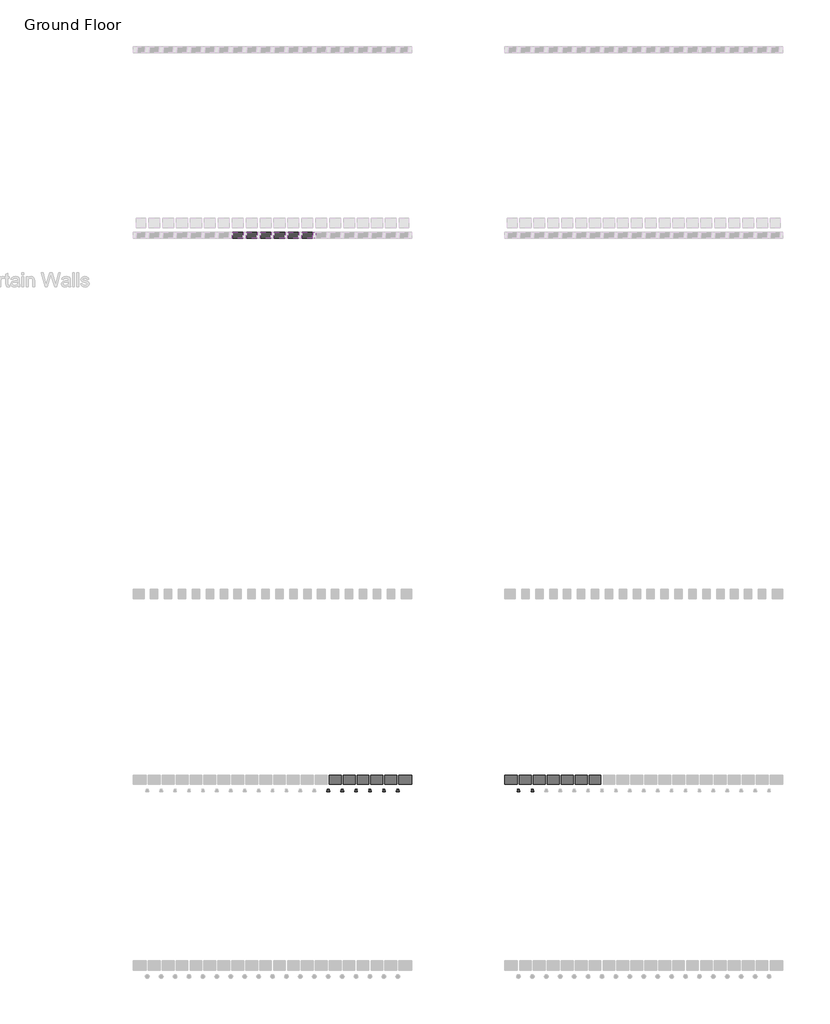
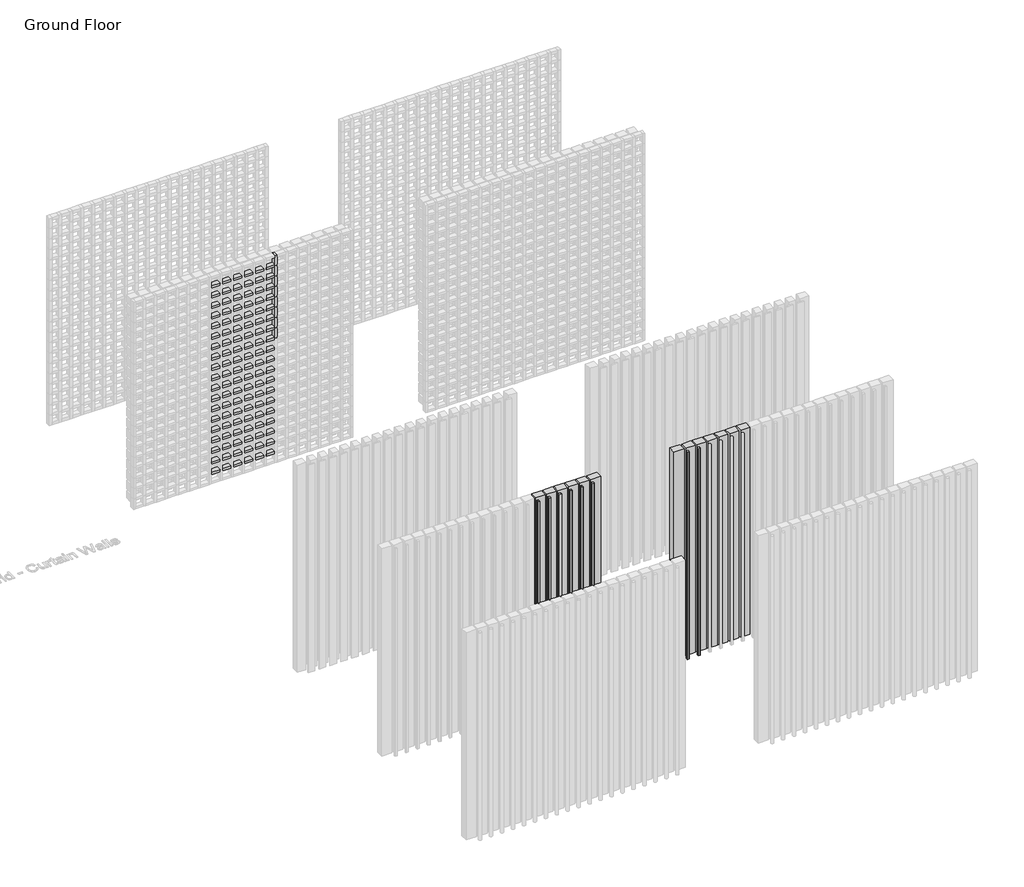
# One storey, part 60 of 350: 130 members, 13 plates.
"""IFC4 building model written with IfcOpenShell, lengths in millimetres."""

from ifc_helpers import new_model, si_unit, origin, place, context, project, spatial, transform, mapped, element, save
from components import rectangular_mullion_25c8ac94, rectangular_mullion_5b501421, rectangular_mullion_f28dea33, empty_system_panel_empty_de2abd15, empty_system_panel_empty_1239baa2, empty_system_panel_empty_e311c30d

model = new_model("IFC4")

# Units and contexts
model_context = context("Model", 3, world=origin())
ifc_project = project(units=[si_unit("LENGTHUNIT", "METRE", prefix="MILLI")], contexts=[model_context])

# Site, building, storey
site = spatial("IfcSite", under=ifc_project)
building = spatial("IfcBuilding", under=site)
storey = spatial("IfcBuildingStorey", under=building, Name="Ground Floor", Elevation=0.0)

# Members
placement = place(None, origin())
rectangular_mullion_shape = rectangular_mullion_25c8ac94(model_context)
element("IfcMember", 1, ObjectType="Rectangular Mullion : Batten_Aluminium_Modinex_Austratus_Linear_Fin_Cedar", at=placement, inside=storey, context=model_context, shape_type="MappedRepresentation", body=[
    mapped(rectangular_mullion_shape, transform((8016.4361642, 32968.2978302, 0.0), x_axis=(1.0, 0.0, 0.0), y_axis=(0.0, -1.0, 0.0), z_axis=(0.0, 0.0, -1.0))),
])
element("IfcMember", 2, ObjectType="Rectangular Mullion : Batten_Aluminium_Modinex_Austratus_Linear_Fin_Cedar", at=placement, inside=storey, context=model_context, shape_type="MappedRepresentation", body=[
    mapped(rectangular_mullion_shape, transform((8166.4361642, 32968.2978302, 0.0), x_axis=(1.0, 0.0, 0.0), y_axis=(0.0, -1.0, 0.0), z_axis=(0.0, 0.0, -1.0))),
])
element("IfcMember", 3, ObjectType="Rectangular Mullion : Batten_Aluminium_Modinex_Austratus_Linear_Fin_Cedar", at=placement, inside=storey, context=model_context, shape_type="MappedRepresentation", body=[
    mapped(rectangular_mullion_shape, transform((8316.4361642, 32968.2978302, 0.0), x_axis=(1.0, 0.0, 0.0), y_axis=(0.0, -1.0, 0.0), z_axis=(0.0, 0.0, -1.0))),
])
element("IfcMember", 4, ObjectType="Rectangular Mullion : Batten_Aluminium_Modinex_Austratus_Linear_Fin_Cedar", at=placement, inside=storey, context=model_context, shape_type="MappedRepresentation", body=[
    mapped(rectangular_mullion_shape, transform((8466.4361642, 32968.2978302, 0.0), x_axis=(1.0, 0.0, 0.0), y_axis=(0.0, -1.0, 0.0), z_axis=(0.0, 0.0, -1.0))),
])
element("IfcMember", 5, ObjectType="Rectangular Mullion : Batten_Aluminium_Modinex_Austratus_Linear_Fin_Cedar", at=placement, inside=storey, context=model_context, shape_type="MappedRepresentation", body=[
    mapped(rectangular_mullion_shape, transform((8616.4361642, 32968.2978302, 0.0), x_axis=(1.0, 0.0, 0.0), y_axis=(0.0, -1.0, 0.0), z_axis=(0.0, 0.0, -1.0))),
])
element("IfcMember", 6, ObjectType="Rectangular Mullion : Batten_Aluminium_Modinex_Austratus_Linear_Fin_Cedar", at=placement, inside=storey, context=model_context, shape_type="MappedRepresentation", body=[
    mapped(rectangular_mullion_shape, transform((8766.4361642, 32968.2978302, 0.0), x_axis=(1.0, 0.0, 0.0), y_axis=(0.0, -1.0, 0.0), z_axis=(0.0, 0.0, -1.0))),
])
rectangular_mullion_2_shape = rectangular_mullion_5b501421(model_context)
element("IfcMember", 7, ObjectType="Rectangular Mullion : Batten_Timber_Modinex_Austratus_Grid_Fascia_30x65_Blackbutt", at=placement, inside=storey, context=model_context, shape_type="MappedRepresentation", body=[
    mapped(rectangular_mullion_2_shape, transform((7866.4361642, 38968.2978302, 1800.0), x_axis=(1.0, 0.0, 0.0), y_axis=(0.0, -1.0, 0.0), z_axis=(0.0, 0.0, -1.0))),
])
element("IfcMember", 8, ObjectType="Rectangular Mullion : Batten_Timber_Modinex_Austratus_Grid_Fascia_30x65_Blackbutt", at=placement, inside=storey, context=model_context, shape_type="MappedRepresentation", body=[
    mapped(rectangular_mullion_2_shape, transform((7866.4361642, 38968.2978302, 1950.0), x_axis=(1.0, 0.0, 0.0), y_axis=(0.0, -1.0, 0.0), z_axis=(0.0, 0.0, -1.0))),
])
element("IfcMember", 9, ObjectType="Rectangular Mullion : Batten_Timber_Modinex_Austratus_Grid_Fascia_30x65_Blackbutt", at=placement, inside=storey, context=model_context, shape_type="MappedRepresentation", body=[
    mapped(rectangular_mullion_2_shape, transform((7866.4361642, 38968.2978302, 2100.0), x_axis=(1.0, 0.0, 0.0), y_axis=(0.0, -1.0, 0.0), z_axis=(0.0, 0.0, -1.0))),
])
element("IfcMember", 10, ObjectType="Rectangular Mullion : Batten_Timber_Modinex_Austratus_Grid_Fascia_30x65_Blackbutt", at=placement, inside=storey, context=model_context, shape_type="MappedRepresentation", body=[
    mapped(rectangular_mullion_2_shape, transform((7866.4361642, 38968.2978302, 2250.0), x_axis=(1.0, 0.0, 0.0), y_axis=(0.0, -1.0, 0.0), z_axis=(0.0, 0.0, -1.0))),
])
element("IfcMember", 11, ObjectType="Rectangular Mullion : Batten_Timber_Modinex_Austratus_Grid_Fascia_30x65_Blackbutt", at=placement, inside=storey, context=model_context, shape_type="MappedRepresentation", body=[
    mapped(rectangular_mullion_2_shape, transform((7866.4361642, 38968.2978302, 2400.0), x_axis=(1.0, 0.0, 0.0), y_axis=(0.0, -1.0, 0.0), z_axis=(0.0, 0.0, -1.0))),
])
element("IfcMember", 12, ObjectType="Rectangular Mullion : Batten_Timber_Modinex_Austratus_Grid_Fascia_30x65_Blackbutt", at=placement, inside=storey, context=model_context, shape_type="MappedRepresentation", body=[
    mapped(rectangular_mullion_2_shape, transform((7866.4361642, 38968.2978302, 2550.0), x_axis=(1.0, 0.0, 0.0), y_axis=(0.0, -1.0, 0.0), z_axis=(0.0, 0.0, -1.0))),
])
element("IfcMember", 13, ObjectType="Rectangular Mullion : Batten_Timber_Modinex_Austratus_Grid_Fascia_30x65_Blackbutt", at=placement, inside=storey, context=model_context, shape_type="MappedRepresentation", body=[
    mapped(rectangular_mullion_2_shape, transform((7866.4361642, 38968.2978302, 2700.0), x_axis=(1.0, 0.0, 0.0), y_axis=(0.0, -1.0, 0.0), z_axis=(0.0, 0.0, -1.0))),
])
element("IfcMember", 14, ObjectType="Rectangular Mullion : Batten_Timber_Modinex_Austratus_Grid_Fascia_30x65_Blackbutt", at=placement, inside=storey, context=model_context, shape_type="MappedRepresentation", body=[
    mapped(rectangular_mullion_2_shape, transform((7866.4361642, 38968.2978302, 2850.0), x_axis=(1.0, 0.0, 0.0), y_axis=(0.0, -1.0, 0.0), z_axis=(0.0, 0.0, -1.0))),
])
rectangular_mullion_3_shape = rectangular_mullion_f28dea33(model_context)
element("IfcMember", 15, ObjectType="Rectangular Mullion : Batten_Timber_Modinex_Austratus_Grid_Fascia_30x65_Blackbutt", at=placement, inside=storey, context=model_context, shape_type="MappedRepresentation", body=[
    mapped(rectangular_mullion_3_shape, transform((7101.4361642, 38968.2978302, 150.0), x_axis=(0.0, 0.0, 1.0), y_axis=(0.0, -1.0, 0.0), z_axis=(1.0, 0.0, 0.0))),
])
element("IfcMember", 16, ObjectType="Rectangular Mullion : Batten_Timber_Modinex_Austratus_Grid_Fascia_30x65_Blackbutt", at=placement, inside=storey, context=model_context, shape_type="MappedRepresentation", body=[
    mapped(rectangular_mullion_3_shape, transform((7251.4361642, 38968.2978302, 150.0), x_axis=(0.0, 0.0, 1.0), y_axis=(0.0, -1.0, 0.0), z_axis=(1.0, 0.0, 0.0))),
])
element("IfcMember", 17, ObjectType="Rectangular Mullion : Batten_Timber_Modinex_Austratus_Grid_Fascia_30x65_Blackbutt", at=placement, inside=storey, context=model_context, shape_type="MappedRepresentation", body=[
    mapped(rectangular_mullion_3_shape, transform((7401.4361642, 38968.2978302, 150.0), x_axis=(0.0, 0.0, 1.0), y_axis=(0.0, -1.0, 0.0), z_axis=(1.0, 0.0, 0.0))),
])
element("IfcMember", 18, ObjectType="Rectangular Mullion : Batten_Timber_Modinex_Austratus_Grid_Fascia_30x65_Blackbutt", at=placement, inside=storey, context=model_context, shape_type="MappedRepresentation", body=[
    mapped(rectangular_mullion_3_shape, transform((7551.4361642, 38968.2978302, 150.0), x_axis=(0.0, 0.0, 1.0), y_axis=(0.0, -1.0, 0.0), z_axis=(1.0, 0.0, 0.0))),
])
element("IfcMember", 19, ObjectType="Rectangular Mullion : Batten_Timber_Modinex_Austratus_Grid_Fascia_30x65_Blackbutt", at=placement, inside=storey, context=model_context, shape_type="MappedRepresentation", body=[
    mapped(rectangular_mullion_3_shape, transform((7701.4361642, 38968.2978302, 150.0), x_axis=(0.0, 0.0, 1.0), y_axis=(0.0, -1.0, 0.0), z_axis=(1.0, 0.0, 0.0))),
])
element("IfcMember", 20, ObjectType="Rectangular Mullion : Batten_Timber_Modinex_Austratus_Grid_Fascia_30x65_Blackbutt", at=placement, inside=storey, context=model_context, shape_type="MappedRepresentation", body=[
    mapped(rectangular_mullion_3_shape, transform((7851.4361642, 38968.2978302, 150.0), x_axis=(0.0, 0.0, 1.0), y_axis=(0.0, -1.0, 0.0), z_axis=(1.0, 0.0, 0.0))),
])
element("IfcMember", 21, ObjectType="Rectangular Mullion : Batten_Timber_Modinex_Austratus_Grid_Fascia_30x65_Blackbutt", at=placement, inside=storey, context=model_context, shape_type="MappedRepresentation", body=[
    mapped(rectangular_mullion_3_shape, transform((7101.4361642, 38968.2978302, 300.0), x_axis=(0.0, 0.0, 1.0), y_axis=(0.0, -1.0, 0.0), z_axis=(1.0, 0.0, 0.0))),
])
element("IfcMember", 22, ObjectType="Rectangular Mullion : Batten_Timber_Modinex_Austratus_Grid_Fascia_30x65_Blackbutt", at=placement, inside=storey, context=model_context, shape_type="MappedRepresentation", body=[
    mapped(rectangular_mullion_3_shape, transform((7251.4361642, 38968.2978302, 300.0), x_axis=(0.0, 0.0, 1.0), y_axis=(0.0, -1.0, 0.0), z_axis=(1.0, 0.0, 0.0))),
])
element("IfcMember", 23, ObjectType="Rectangular Mullion : Batten_Timber_Modinex_Austratus_Grid_Fascia_30x65_Blackbutt", at=placement, inside=storey, context=model_context, shape_type="MappedRepresentation", body=[
    mapped(rectangular_mullion_3_shape, transform((7401.4361642, 38968.2978302, 300.0), x_axis=(0.0, 0.0, 1.0), y_axis=(0.0, -1.0, 0.0), z_axis=(1.0, 0.0, 0.0))),
])
element("IfcMember", 24, ObjectType="Rectangular Mullion : Batten_Timber_Modinex_Austratus_Grid_Fascia_30x65_Blackbutt", at=placement, inside=storey, context=model_context, shape_type="MappedRepresentation", body=[
    mapped(rectangular_mullion_3_shape, transform((7551.4361642, 38968.2978302, 300.0), x_axis=(0.0, 0.0, 1.0), y_axis=(0.0, -1.0, 0.0), z_axis=(1.0, 0.0, 0.0))),
])
element("IfcMember", 25, ObjectType="Rectangular Mullion : Batten_Timber_Modinex_Austratus_Grid_Fascia_30x65_Blackbutt", at=placement, inside=storey, context=model_context, shape_type="MappedRepresentation", body=[
    mapped(rectangular_mullion_3_shape, transform((7701.4361642, 38968.2978302, 300.0), x_axis=(0.0, 0.0, 1.0), y_axis=(0.0, -1.0, 0.0), z_axis=(1.0, 0.0, 0.0))),
])
element("IfcMember", 26, ObjectType="Rectangular Mullion : Batten_Timber_Modinex_Austratus_Grid_Fascia_30x65_Blackbutt", at=placement, inside=storey, context=model_context, shape_type="MappedRepresentation", body=[
    mapped(rectangular_mullion_3_shape, transform((7851.4361642, 38968.2978302, 300.0), x_axis=(0.0, 0.0, 1.0), y_axis=(0.0, -1.0, 0.0), z_axis=(1.0, 0.0, 0.0))),
])
element("IfcMember", 27, ObjectType="Rectangular Mullion : Batten_Timber_Modinex_Austratus_Grid_Fascia_30x65_Blackbutt", at=placement, inside=storey, context=model_context, shape_type="MappedRepresentation", body=[
    mapped(rectangular_mullion_3_shape, transform((7101.4361642, 38968.2978302, 450.0), x_axis=(0.0, 0.0, 1.0), y_axis=(0.0, -1.0, 0.0), z_axis=(1.0, 0.0, 0.0))),
])
element("IfcMember", 28, ObjectType="Rectangular Mullion : Batten_Timber_Modinex_Austratus_Grid_Fascia_30x65_Blackbutt", at=placement, inside=storey, context=model_context, shape_type="MappedRepresentation", body=[
    mapped(rectangular_mullion_3_shape, transform((7251.4361642, 38968.2978302, 450.0), x_axis=(0.0, 0.0, 1.0), y_axis=(0.0, -1.0, 0.0), z_axis=(1.0, 0.0, 0.0))),
])
element("IfcMember", 29, ObjectType="Rectangular Mullion : Batten_Timber_Modinex_Austratus_Grid_Fascia_30x65_Blackbutt", at=placement, inside=storey, context=model_context, shape_type="MappedRepresentation", body=[
    mapped(rectangular_mullion_3_shape, transform((7401.4361642, 38968.2978302, 450.0), x_axis=(0.0, 0.0, 1.0), y_axis=(0.0, -1.0, 0.0), z_axis=(1.0, 0.0, 0.0))),
])
element("IfcMember", 30, ObjectType="Rectangular Mullion : Batten_Timber_Modinex_Austratus_Grid_Fascia_30x65_Blackbutt", at=placement, inside=storey, context=model_context, shape_type="MappedRepresentation", body=[
    mapped(rectangular_mullion_3_shape, transform((7551.4361642, 38968.2978302, 450.0), x_axis=(0.0, 0.0, 1.0), y_axis=(0.0, -1.0, 0.0), z_axis=(1.0, 0.0, 0.0))),
])
element("IfcMember", 31, ObjectType="Rectangular Mullion : Batten_Timber_Modinex_Austratus_Grid_Fascia_30x65_Blackbutt", at=placement, inside=storey, context=model_context, shape_type="MappedRepresentation", body=[
    mapped(rectangular_mullion_3_shape, transform((7701.4361642, 38968.2978302, 450.0), x_axis=(0.0, 0.0, 1.0), y_axis=(0.0, -1.0, 0.0), z_axis=(1.0, 0.0, 0.0))),
])
element("IfcMember", 32, ObjectType="Rectangular Mullion : Batten_Timber_Modinex_Austratus_Grid_Fascia_30x65_Blackbutt", at=placement, inside=storey, context=model_context, shape_type="MappedRepresentation", body=[
    mapped(rectangular_mullion_3_shape, transform((7851.4361642, 38968.2978302, 450.0), x_axis=(0.0, 0.0, 1.0), y_axis=(0.0, -1.0, 0.0), z_axis=(1.0, 0.0, 0.0))),
])
element("IfcMember", 33, ObjectType="Rectangular Mullion : Batten_Timber_Modinex_Austratus_Grid_Fascia_30x65_Blackbutt", at=placement, inside=storey, context=model_context, shape_type="MappedRepresentation", body=[
    mapped(rectangular_mullion_3_shape, transform((7101.4361642, 38968.2978302, 600.0), x_axis=(0.0, 0.0, 1.0), y_axis=(0.0, -1.0, 0.0), z_axis=(1.0, 0.0, 0.0))),
])
element("IfcMember", 34, ObjectType="Rectangular Mullion : Batten_Timber_Modinex_Austratus_Grid_Fascia_30x65_Blackbutt", at=placement, inside=storey, context=model_context, shape_type="MappedRepresentation", body=[
    mapped(rectangular_mullion_3_shape, transform((7251.4361642, 38968.2978302, 600.0), x_axis=(0.0, 0.0, 1.0), y_axis=(0.0, -1.0, 0.0), z_axis=(1.0, 0.0, 0.0))),
])
element("IfcMember", 35, ObjectType="Rectangular Mullion : Batten_Timber_Modinex_Austratus_Grid_Fascia_30x65_Blackbutt", at=placement, inside=storey, context=model_context, shape_type="MappedRepresentation", body=[
    mapped(rectangular_mullion_3_shape, transform((7401.4361642, 38968.2978302, 600.0), x_axis=(0.0, 0.0, 1.0), y_axis=(0.0, -1.0, 0.0), z_axis=(1.0, 0.0, 0.0))),
])
element("IfcMember", 36, ObjectType="Rectangular Mullion : Batten_Timber_Modinex_Austratus_Grid_Fascia_30x65_Blackbutt", at=placement, inside=storey, context=model_context, shape_type="MappedRepresentation", body=[
    mapped(rectangular_mullion_3_shape, transform((7551.4361642, 38968.2978302, 600.0), x_axis=(0.0, 0.0, 1.0), y_axis=(0.0, -1.0, 0.0), z_axis=(1.0, 0.0, 0.0))),
])
element("IfcMember", 37, ObjectType="Rectangular Mullion : Batten_Timber_Modinex_Austratus_Grid_Fascia_30x65_Blackbutt", at=placement, inside=storey, context=model_context, shape_type="MappedRepresentation", body=[
    mapped(rectangular_mullion_3_shape, transform((7701.4361642, 38968.2978302, 600.0), x_axis=(0.0, 0.0, 1.0), y_axis=(0.0, -1.0, 0.0), z_axis=(1.0, 0.0, 0.0))),
])
element("IfcMember", 38, ObjectType="Rectangular Mullion : Batten_Timber_Modinex_Austratus_Grid_Fascia_30x65_Blackbutt", at=placement, inside=storey, context=model_context, shape_type="MappedRepresentation", body=[
    mapped(rectangular_mullion_3_shape, transform((7851.4361642, 38968.2978302, 600.0), x_axis=(0.0, 0.0, 1.0), y_axis=(0.0, -1.0, 0.0), z_axis=(1.0, 0.0, 0.0))),
])
element("IfcMember", 39, ObjectType="Rectangular Mullion : Batten_Timber_Modinex_Austratus_Grid_Fascia_30x65_Blackbutt", at=placement, inside=storey, context=model_context, shape_type="MappedRepresentation", body=[
    mapped(rectangular_mullion_3_shape, transform((7101.4361642, 38968.2978302, 750.0), x_axis=(0.0, 0.0, 1.0), y_axis=(0.0, -1.0, 0.0), z_axis=(1.0, 0.0, 0.0))),
])
element("IfcMember", 40, ObjectType="Rectangular Mullion : Batten_Timber_Modinex_Austratus_Grid_Fascia_30x65_Blackbutt", at=placement, inside=storey, context=model_context, shape_type="MappedRepresentation", body=[
    mapped(rectangular_mullion_3_shape, transform((7251.4361642, 38968.2978302, 750.0), x_axis=(0.0, 0.0, 1.0), y_axis=(0.0, -1.0, 0.0), z_axis=(1.0, 0.0, 0.0))),
])
element("IfcMember", 41, ObjectType="Rectangular Mullion : Batten_Timber_Modinex_Austratus_Grid_Fascia_30x65_Blackbutt", at=placement, inside=storey, context=model_context, shape_type="MappedRepresentation", body=[
    mapped(rectangular_mullion_3_shape, transform((7401.4361642, 38968.2978302, 750.0), x_axis=(0.0, 0.0, 1.0), y_axis=(0.0, -1.0, 0.0), z_axis=(1.0, 0.0, 0.0))),
])
element("IfcMember", 42, ObjectType="Rectangular Mullion : Batten_Timber_Modinex_Austratus_Grid_Fascia_30x65_Blackbutt", at=placement, inside=storey, context=model_context, shape_type="MappedRepresentation", body=[
    mapped(rectangular_mullion_3_shape, transform((7551.4361642, 38968.2978302, 750.0), x_axis=(0.0, 0.0, 1.0), y_axis=(0.0, -1.0, 0.0), z_axis=(1.0, 0.0, 0.0))),
])
element("IfcMember", 43, ObjectType="Rectangular Mullion : Batten_Timber_Modinex_Austratus_Grid_Fascia_30x65_Blackbutt", at=placement, inside=storey, context=model_context, shape_type="MappedRepresentation", body=[
    mapped(rectangular_mullion_3_shape, transform((7701.4361642, 38968.2978302, 750.0), x_axis=(0.0, 0.0, 1.0), y_axis=(0.0, -1.0, 0.0), z_axis=(1.0, 0.0, 0.0))),
])
element("IfcMember", 44, ObjectType="Rectangular Mullion : Batten_Timber_Modinex_Austratus_Grid_Fascia_30x65_Blackbutt", at=placement, inside=storey, context=model_context, shape_type="MappedRepresentation", body=[
    mapped(rectangular_mullion_3_shape, transform((7851.4361642, 38968.2978302, 750.0), x_axis=(0.0, 0.0, 1.0), y_axis=(0.0, -1.0, 0.0), z_axis=(1.0, 0.0, 0.0))),
])
element("IfcMember", 45, ObjectType="Rectangular Mullion : Batten_Timber_Modinex_Austratus_Grid_Fascia_30x65_Blackbutt", at=placement, inside=storey, context=model_context, shape_type="MappedRepresentation", body=[
    mapped(rectangular_mullion_3_shape, transform((7101.4361642, 38968.2978302, 900.0), x_axis=(0.0, 0.0, 1.0), y_axis=(0.0, -1.0, 0.0), z_axis=(1.0, 0.0, 0.0))),
])
element("IfcMember", 46, ObjectType="Rectangular Mullion : Batten_Timber_Modinex_Austratus_Grid_Fascia_30x65_Blackbutt", at=placement, inside=storey, context=model_context, shape_type="MappedRepresentation", body=[
    mapped(rectangular_mullion_3_shape, transform((7251.4361642, 38968.2978302, 900.0), x_axis=(0.0, 0.0, 1.0), y_axis=(0.0, -1.0, 0.0), z_axis=(1.0, 0.0, 0.0))),
])
element("IfcMember", 47, ObjectType="Rectangular Mullion : Batten_Timber_Modinex_Austratus_Grid_Fascia_30x65_Blackbutt", at=placement, inside=storey, context=model_context, shape_type="MappedRepresentation", body=[
    mapped(rectangular_mullion_3_shape, transform((7401.4361642, 38968.2978302, 900.0), x_axis=(0.0, 0.0, 1.0), y_axis=(0.0, -1.0, 0.0), z_axis=(1.0, 0.0, 0.0))),
])
element("IfcMember", 48, ObjectType="Rectangular Mullion : Batten_Timber_Modinex_Austratus_Grid_Fascia_30x65_Blackbutt", at=placement, inside=storey, context=model_context, shape_type="MappedRepresentation", body=[
    mapped(rectangular_mullion_3_shape, transform((7551.4361642, 38968.2978302, 900.0), x_axis=(0.0, 0.0, 1.0), y_axis=(0.0, -1.0, 0.0), z_axis=(1.0, 0.0, 0.0))),
])
element("IfcMember", 49, ObjectType="Rectangular Mullion : Batten_Timber_Modinex_Austratus_Grid_Fascia_30x65_Blackbutt", at=placement, inside=storey, context=model_context, shape_type="MappedRepresentation", body=[
    mapped(rectangular_mullion_3_shape, transform((7701.4361642, 38968.2978302, 900.0), x_axis=(0.0, 0.0, 1.0), y_axis=(0.0, -1.0, 0.0), z_axis=(1.0, 0.0, 0.0))),
])
element("IfcMember", 50, ObjectType="Rectangular Mullion : Batten_Timber_Modinex_Austratus_Grid_Fascia_30x65_Blackbutt", at=placement, inside=storey, context=model_context, shape_type="MappedRepresentation", body=[
    mapped(rectangular_mullion_3_shape, transform((7851.4361642, 38968.2978302, 900.0), x_axis=(0.0, 0.0, 1.0), y_axis=(0.0, -1.0, 0.0), z_axis=(1.0, 0.0, 0.0))),
])
element("IfcMember", 51, ObjectType="Rectangular Mullion : Batten_Timber_Modinex_Austratus_Grid_Fascia_30x65_Blackbutt", at=placement, inside=storey, context=model_context, shape_type="MappedRepresentation", body=[
    mapped(rectangular_mullion_3_shape, transform((7101.4361642, 38968.2978302, 1050.0), x_axis=(0.0, 0.0, 1.0), y_axis=(0.0, -1.0, 0.0), z_axis=(1.0, 0.0, 0.0))),
])
element("IfcMember", 52, ObjectType="Rectangular Mullion : Batten_Timber_Modinex_Austratus_Grid_Fascia_30x65_Blackbutt", at=placement, inside=storey, context=model_context, shape_type="MappedRepresentation", body=[
    mapped(rectangular_mullion_3_shape, transform((7251.4361642, 38968.2978302, 1050.0), x_axis=(0.0, 0.0, 1.0), y_axis=(0.0, -1.0, 0.0), z_axis=(1.0, 0.0, 0.0))),
])
element("IfcMember", 53, ObjectType="Rectangular Mullion : Batten_Timber_Modinex_Austratus_Grid_Fascia_30x65_Blackbutt", at=placement, inside=storey, context=model_context, shape_type="MappedRepresentation", body=[
    mapped(rectangular_mullion_3_shape, transform((7401.4361642, 38968.2978302, 1050.0), x_axis=(0.0, 0.0, 1.0), y_axis=(0.0, -1.0, 0.0), z_axis=(1.0, 0.0, 0.0))),
])
element("IfcMember", 54, ObjectType="Rectangular Mullion : Batten_Timber_Modinex_Austratus_Grid_Fascia_30x65_Blackbutt", at=placement, inside=storey, context=model_context, shape_type="MappedRepresentation", body=[
    mapped(rectangular_mullion_3_shape, transform((7551.4361642, 38968.2978302, 1050.0), x_axis=(0.0, 0.0, 1.0), y_axis=(0.0, -1.0, 0.0), z_axis=(1.0, 0.0, 0.0))),
])
element("IfcMember", 55, ObjectType="Rectangular Mullion : Batten_Timber_Modinex_Austratus_Grid_Fascia_30x65_Blackbutt", at=placement, inside=storey, context=model_context, shape_type="MappedRepresentation", body=[
    mapped(rectangular_mullion_3_shape, transform((7701.4361642, 38968.2978302, 1050.0), x_axis=(0.0, 0.0, 1.0), y_axis=(0.0, -1.0, 0.0), z_axis=(1.0, 0.0, 0.0))),
])
element("IfcMember", 56, ObjectType="Rectangular Mullion : Batten_Timber_Modinex_Austratus_Grid_Fascia_30x65_Blackbutt", at=placement, inside=storey, context=model_context, shape_type="MappedRepresentation", body=[
    mapped(rectangular_mullion_3_shape, transform((7851.4361642, 38968.2978302, 1050.0), x_axis=(0.0, 0.0, 1.0), y_axis=(0.0, -1.0, 0.0), z_axis=(1.0, 0.0, 0.0))),
])
element("IfcMember", 57, ObjectType="Rectangular Mullion : Batten_Timber_Modinex_Austratus_Grid_Fascia_30x65_Blackbutt", at=placement, inside=storey, context=model_context, shape_type="MappedRepresentation", body=[
    mapped(rectangular_mullion_3_shape, transform((7101.4361642, 38968.2978302, 1200.0), x_axis=(0.0, 0.0, 1.0), y_axis=(0.0, -1.0, 0.0), z_axis=(1.0, 0.0, 0.0))),
])
element("IfcMember", 58, ObjectType="Rectangular Mullion : Batten_Timber_Modinex_Austratus_Grid_Fascia_30x65_Blackbutt", at=placement, inside=storey, context=model_context, shape_type="MappedRepresentation", body=[
    mapped(rectangular_mullion_3_shape, transform((7251.4361642, 38968.2978302, 1200.0), x_axis=(0.0, 0.0, 1.0), y_axis=(0.0, -1.0, 0.0), z_axis=(1.0, 0.0, 0.0))),
])
element("IfcMember", 59, ObjectType="Rectangular Mullion : Batten_Timber_Modinex_Austratus_Grid_Fascia_30x65_Blackbutt", at=placement, inside=storey, context=model_context, shape_type="MappedRepresentation", body=[
    mapped(rectangular_mullion_3_shape, transform((7401.4361642, 38968.2978302, 1200.0), x_axis=(0.0, 0.0, 1.0), y_axis=(0.0, -1.0, 0.0), z_axis=(1.0, 0.0, 0.0))),
])
element("IfcMember", 60, ObjectType="Rectangular Mullion : Batten_Timber_Modinex_Austratus_Grid_Fascia_30x65_Blackbutt", at=placement, inside=storey, context=model_context, shape_type="MappedRepresentation", body=[
    mapped(rectangular_mullion_3_shape, transform((7551.4361642, 38968.2978302, 1200.0), x_axis=(0.0, 0.0, 1.0), y_axis=(0.0, -1.0, 0.0), z_axis=(1.0, 0.0, 0.0))),
])
element("IfcMember", 61, ObjectType="Rectangular Mullion : Batten_Timber_Modinex_Austratus_Grid_Fascia_30x65_Blackbutt", at=placement, inside=storey, context=model_context, shape_type="MappedRepresentation", body=[
    mapped(rectangular_mullion_3_shape, transform((7701.4361642, 38968.2978302, 1200.0), x_axis=(0.0, 0.0, 1.0), y_axis=(0.0, -1.0, 0.0), z_axis=(1.0, 0.0, 0.0))),
])
element("IfcMember", 62, ObjectType="Rectangular Mullion : Batten_Timber_Modinex_Austratus_Grid_Fascia_30x65_Blackbutt", at=placement, inside=storey, context=model_context, shape_type="MappedRepresentation", body=[
    mapped(rectangular_mullion_3_shape, transform((7851.4361642, 38968.2978302, 1200.0), x_axis=(0.0, 0.0, 1.0), y_axis=(0.0, -1.0, 0.0), z_axis=(1.0, 0.0, 0.0))),
])
element("IfcMember", 63, ObjectType="Rectangular Mullion : Batten_Timber_Modinex_Austratus_Grid_Fascia_30x65_Blackbutt", at=placement, inside=storey, context=model_context, shape_type="MappedRepresentation", body=[
    mapped(rectangular_mullion_3_shape, transform((7101.4361642, 38968.2978302, 1350.0), x_axis=(0.0, 0.0, 1.0), y_axis=(0.0, -1.0, 0.0), z_axis=(1.0, 0.0, 0.0))),
])
element("IfcMember", 64, ObjectType="Rectangular Mullion : Batten_Timber_Modinex_Austratus_Grid_Fascia_30x65_Blackbutt", at=placement, inside=storey, context=model_context, shape_type="MappedRepresentation", body=[
    mapped(rectangular_mullion_3_shape, transform((7251.4361642, 38968.2978302, 1350.0), x_axis=(0.0, 0.0, 1.0), y_axis=(0.0, -1.0, 0.0), z_axis=(1.0, 0.0, 0.0))),
])
element("IfcMember", 65, ObjectType="Rectangular Mullion : Batten_Timber_Modinex_Austratus_Grid_Fascia_30x65_Blackbutt", at=placement, inside=storey, context=model_context, shape_type="MappedRepresentation", body=[
    mapped(rectangular_mullion_3_shape, transform((7401.4361642, 38968.2978302, 1350.0), x_axis=(0.0, 0.0, 1.0), y_axis=(0.0, -1.0, 0.0), z_axis=(1.0, 0.0, 0.0))),
])
element("IfcMember", 66, ObjectType="Rectangular Mullion : Batten_Timber_Modinex_Austratus_Grid_Fascia_30x65_Blackbutt", at=placement, inside=storey, context=model_context, shape_type="MappedRepresentation", body=[
    mapped(rectangular_mullion_3_shape, transform((7551.4361642, 38968.2978302, 1350.0), x_axis=(0.0, 0.0, 1.0), y_axis=(0.0, -1.0, 0.0), z_axis=(1.0, 0.0, 0.0))),
])
element("IfcMember", 67, ObjectType="Rectangular Mullion : Batten_Timber_Modinex_Austratus_Grid_Fascia_30x65_Blackbutt", at=placement, inside=storey, context=model_context, shape_type="MappedRepresentation", body=[
    mapped(rectangular_mullion_3_shape, transform((7701.4361642, 38968.2978302, 1350.0), x_axis=(0.0, 0.0, 1.0), y_axis=(0.0, -1.0, 0.0), z_axis=(1.0, 0.0, 0.0))),
])
element("IfcMember", 68, ObjectType="Rectangular Mullion : Batten_Timber_Modinex_Austratus_Grid_Fascia_30x65_Blackbutt", at=placement, inside=storey, context=model_context, shape_type="MappedRepresentation", body=[
    mapped(rectangular_mullion_3_shape, transform((7851.4361642, 38968.2978302, 1350.0), x_axis=(0.0, 0.0, 1.0), y_axis=(0.0, -1.0, 0.0), z_axis=(1.0, 0.0, 0.0))),
])
element("IfcMember", 69, ObjectType="Rectangular Mullion : Batten_Timber_Modinex_Austratus_Grid_Fascia_30x65_Blackbutt", at=placement, inside=storey, context=model_context, shape_type="MappedRepresentation", body=[
    mapped(rectangular_mullion_3_shape, transform((7101.4361642, 38968.2978302, 1500.0), x_axis=(0.0, 0.0, 1.0), y_axis=(0.0, -1.0, 0.0), z_axis=(1.0, 0.0, 0.0))),
])
element("IfcMember", 70, ObjectType="Rectangular Mullion : Batten_Timber_Modinex_Austratus_Grid_Fascia_30x65_Blackbutt", at=placement, inside=storey, context=model_context, shape_type="MappedRepresentation", body=[
    mapped(rectangular_mullion_3_shape, transform((7251.4361642, 38968.2978302, 1500.0), x_axis=(0.0, 0.0, 1.0), y_axis=(0.0, -1.0, 0.0), z_axis=(1.0, 0.0, 0.0))),
])
element("IfcMember", 71, ObjectType="Rectangular Mullion : Batten_Timber_Modinex_Austratus_Grid_Fascia_30x65_Blackbutt", at=placement, inside=storey, context=model_context, shape_type="MappedRepresentation", body=[
    mapped(rectangular_mullion_3_shape, transform((7401.4361642, 38968.2978302, 1500.0), x_axis=(0.0, 0.0, 1.0), y_axis=(0.0, -1.0, 0.0), z_axis=(1.0, 0.0, 0.0))),
])
element("IfcMember", 72, ObjectType="Rectangular Mullion : Batten_Timber_Modinex_Austratus_Grid_Fascia_30x65_Blackbutt", at=placement, inside=storey, context=model_context, shape_type="MappedRepresentation", body=[
    mapped(rectangular_mullion_3_shape, transform((7551.4361642, 38968.2978302, 1500.0), x_axis=(0.0, 0.0, 1.0), y_axis=(0.0, -1.0, 0.0), z_axis=(1.0, 0.0, 0.0))),
])
element("IfcMember", 73, ObjectType="Rectangular Mullion : Batten_Timber_Modinex_Austratus_Grid_Fascia_30x65_Blackbutt", at=placement, inside=storey, context=model_context, shape_type="MappedRepresentation", body=[
    mapped(rectangular_mullion_3_shape, transform((7701.4361642, 38968.2978302, 1500.0), x_axis=(0.0, 0.0, 1.0), y_axis=(0.0, -1.0, 0.0), z_axis=(1.0, 0.0, 0.0))),
])
element("IfcMember", 74, ObjectType="Rectangular Mullion : Batten_Timber_Modinex_Austratus_Grid_Fascia_30x65_Blackbutt", at=placement, inside=storey, context=model_context, shape_type="MappedRepresentation", body=[
    mapped(rectangular_mullion_3_shape, transform((7851.4361642, 38968.2978302, 1500.0), x_axis=(0.0, 0.0, 1.0), y_axis=(0.0, -1.0, 0.0), z_axis=(1.0, 0.0, 0.0))),
])
element("IfcMember", 75, ObjectType="Rectangular Mullion : Batten_Timber_Modinex_Austratus_Grid_Fascia_30x65_Blackbutt", at=placement, inside=storey, context=model_context, shape_type="MappedRepresentation", body=[
    mapped(rectangular_mullion_3_shape, transform((7101.4361642, 38968.2978302, 1650.0), x_axis=(0.0, 0.0, 1.0), y_axis=(0.0, -1.0, 0.0), z_axis=(1.0, 0.0, 0.0))),
])
element("IfcMember", 76, ObjectType="Rectangular Mullion : Batten_Timber_Modinex_Austratus_Grid_Fascia_30x65_Blackbutt", at=placement, inside=storey, context=model_context, shape_type="MappedRepresentation", body=[
    mapped(rectangular_mullion_3_shape, transform((7251.4361642, 38968.2978302, 1650.0), x_axis=(0.0, 0.0, 1.0), y_axis=(0.0, -1.0, 0.0), z_axis=(1.0, 0.0, 0.0))),
])
element("IfcMember", 77, ObjectType="Rectangular Mullion : Batten_Timber_Modinex_Austratus_Grid_Fascia_30x65_Blackbutt", at=placement, inside=storey, context=model_context, shape_type="MappedRepresentation", body=[
    mapped(rectangular_mullion_3_shape, transform((7401.4361642, 38968.2978302, 1650.0), x_axis=(0.0, 0.0, 1.0), y_axis=(0.0, -1.0, 0.0), z_axis=(1.0, 0.0, 0.0))),
])
element("IfcMember", 78, ObjectType="Rectangular Mullion : Batten_Timber_Modinex_Austratus_Grid_Fascia_30x65_Blackbutt", at=placement, inside=storey, context=model_context, shape_type="MappedRepresentation", body=[
    mapped(rectangular_mullion_3_shape, transform((7551.4361642, 38968.2978302, 1650.0), x_axis=(0.0, 0.0, 1.0), y_axis=(0.0, -1.0, 0.0), z_axis=(1.0, 0.0, 0.0))),
])
element("IfcMember", 79, ObjectType="Rectangular Mullion : Batten_Timber_Modinex_Austratus_Grid_Fascia_30x65_Blackbutt", at=placement, inside=storey, context=model_context, shape_type="MappedRepresentation", body=[
    mapped(rectangular_mullion_3_shape, transform((7701.4361642, 38968.2978302, 1650.0), x_axis=(0.0, 0.0, 1.0), y_axis=(0.0, -1.0, 0.0), z_axis=(1.0, 0.0, 0.0))),
])
element("IfcMember", 80, ObjectType="Rectangular Mullion : Batten_Timber_Modinex_Austratus_Grid_Fascia_30x65_Blackbutt", at=placement, inside=storey, context=model_context, shape_type="MappedRepresentation", body=[
    mapped(rectangular_mullion_3_shape, transform((7851.4361642, 38968.2978302, 1650.0), x_axis=(0.0, 0.0, 1.0), y_axis=(0.0, -1.0, 0.0), z_axis=(1.0, 0.0, 0.0))),
])
element("IfcMember", 81, ObjectType="Rectangular Mullion : Batten_Timber_Modinex_Austratus_Grid_Fascia_30x65_Blackbutt", at=placement, inside=storey, context=model_context, shape_type="MappedRepresentation", body=[
    mapped(rectangular_mullion_3_shape, transform((7101.4361642, 38968.2978302, 1800.0), x_axis=(0.0, 0.0, 1.0), y_axis=(0.0, -1.0, 0.0), z_axis=(1.0, 0.0, 0.0))),
])
element("IfcMember", 82, ObjectType="Rectangular Mullion : Batten_Timber_Modinex_Austratus_Grid_Fascia_30x65_Blackbutt", at=placement, inside=storey, context=model_context, shape_type="MappedRepresentation", body=[
    mapped(rectangular_mullion_3_shape, transform((7251.4361642, 38968.2978302, 1800.0), x_axis=(0.0, 0.0, 1.0), y_axis=(0.0, -1.0, 0.0), z_axis=(1.0, 0.0, 0.0))),
])
element("IfcMember", 83, ObjectType="Rectangular Mullion : Batten_Timber_Modinex_Austratus_Grid_Fascia_30x65_Blackbutt", at=placement, inside=storey, context=model_context, shape_type="MappedRepresentation", body=[
    mapped(rectangular_mullion_3_shape, transform((7401.4361642, 38968.2978302, 1800.0), x_axis=(0.0, 0.0, 1.0), y_axis=(0.0, -1.0, 0.0), z_axis=(1.0, 0.0, 0.0))),
])
element("IfcMember", 84, ObjectType="Rectangular Mullion : Batten_Timber_Modinex_Austratus_Grid_Fascia_30x65_Blackbutt", at=placement, inside=storey, context=model_context, shape_type="MappedRepresentation", body=[
    mapped(rectangular_mullion_3_shape, transform((7551.4361642, 38968.2978302, 1800.0), x_axis=(0.0, 0.0, 1.0), y_axis=(0.0, -1.0, 0.0), z_axis=(1.0, 0.0, 0.0))),
])
element("IfcMember", 85, ObjectType="Rectangular Mullion : Batten_Timber_Modinex_Austratus_Grid_Fascia_30x65_Blackbutt", at=placement, inside=storey, context=model_context, shape_type="MappedRepresentation", body=[
    mapped(rectangular_mullion_3_shape, transform((7701.4361642, 38968.2978302, 1800.0), x_axis=(0.0, 0.0, 1.0), y_axis=(0.0, -1.0, 0.0), z_axis=(1.0, 0.0, 0.0))),
])
element("IfcMember", 86, ObjectType="Rectangular Mullion : Batten_Timber_Modinex_Austratus_Grid_Fascia_30x65_Blackbutt", at=placement, inside=storey, context=model_context, shape_type="MappedRepresentation", body=[
    mapped(rectangular_mullion_3_shape, transform((7851.4361642, 38968.2978302, 1800.0), x_axis=(0.0, 0.0, 1.0), y_axis=(0.0, -1.0, 0.0), z_axis=(1.0, 0.0, 0.0))),
])
element("IfcMember", 87, ObjectType="Rectangular Mullion : Batten_Timber_Modinex_Austratus_Grid_Fascia_30x65_Blackbutt", at=placement, inside=storey, context=model_context, shape_type="MappedRepresentation", body=[
    mapped(rectangular_mullion_3_shape, transform((7101.4361642, 38968.2978302, 1950.0), x_axis=(0.0, 0.0, 1.0), y_axis=(0.0, -1.0, 0.0), z_axis=(1.0, 0.0, 0.0))),
])
element("IfcMember", 88, ObjectType="Rectangular Mullion : Batten_Timber_Modinex_Austratus_Grid_Fascia_30x65_Blackbutt", at=placement, inside=storey, context=model_context, shape_type="MappedRepresentation", body=[
    mapped(rectangular_mullion_3_shape, transform((7251.4361642, 38968.2978302, 1950.0), x_axis=(0.0, 0.0, 1.0), y_axis=(0.0, -1.0, 0.0), z_axis=(1.0, 0.0, 0.0))),
])
element("IfcMember", 89, ObjectType="Rectangular Mullion : Batten_Timber_Modinex_Austratus_Grid_Fascia_30x65_Blackbutt", at=placement, inside=storey, context=model_context, shape_type="MappedRepresentation", body=[
    mapped(rectangular_mullion_3_shape, transform((7401.4361642, 38968.2978302, 1950.0), x_axis=(0.0, 0.0, 1.0), y_axis=(0.0, -1.0, 0.0), z_axis=(1.0, 0.0, 0.0))),
])
element("IfcMember", 90, ObjectType="Rectangular Mullion : Batten_Timber_Modinex_Austratus_Grid_Fascia_30x65_Blackbutt", at=placement, inside=storey, context=model_context, shape_type="MappedRepresentation", body=[
    mapped(rectangular_mullion_3_shape, transform((7551.4361642, 38968.2978302, 1950.0), x_axis=(0.0, 0.0, 1.0), y_axis=(0.0, -1.0, 0.0), z_axis=(1.0, 0.0, 0.0))),
])
element("IfcMember", 91, ObjectType="Rectangular Mullion : Batten_Timber_Modinex_Austratus_Grid_Fascia_30x65_Blackbutt", at=placement, inside=storey, context=model_context, shape_type="MappedRepresentation", body=[
    mapped(rectangular_mullion_3_shape, transform((7701.4361642, 38968.2978302, 1950.0), x_axis=(0.0, 0.0, 1.0), y_axis=(0.0, -1.0, 0.0), z_axis=(1.0, 0.0, 0.0))),
])
element("IfcMember", 92, ObjectType="Rectangular Mullion : Batten_Timber_Modinex_Austratus_Grid_Fascia_30x65_Blackbutt", at=placement, inside=storey, context=model_context, shape_type="MappedRepresentation", body=[
    mapped(rectangular_mullion_3_shape, transform((7851.4361642, 38968.2978302, 1950.0), x_axis=(0.0, 0.0, 1.0), y_axis=(0.0, -1.0, 0.0), z_axis=(1.0, 0.0, 0.0))),
])
element("IfcMember", 93, ObjectType="Rectangular Mullion : Batten_Timber_Modinex_Austratus_Grid_Fascia_30x65_Blackbutt", at=placement, inside=storey, context=model_context, shape_type="MappedRepresentation", body=[
    mapped(rectangular_mullion_3_shape, transform((7101.4361642, 38968.2978302, 2100.0), x_axis=(0.0, 0.0, 1.0), y_axis=(0.0, -1.0, 0.0), z_axis=(1.0, 0.0, 0.0))),
])
element("IfcMember", 94, ObjectType="Rectangular Mullion : Batten_Timber_Modinex_Austratus_Grid_Fascia_30x65_Blackbutt", at=placement, inside=storey, context=model_context, shape_type="MappedRepresentation", body=[
    mapped(rectangular_mullion_3_shape, transform((7251.4361642, 38968.2978302, 2100.0), x_axis=(0.0, 0.0, 1.0), y_axis=(0.0, -1.0, 0.0), z_axis=(1.0, 0.0, 0.0))),
])
element("IfcMember", 95, ObjectType="Rectangular Mullion : Batten_Timber_Modinex_Austratus_Grid_Fascia_30x65_Blackbutt", at=placement, inside=storey, context=model_context, shape_type="MappedRepresentation", body=[
    mapped(rectangular_mullion_3_shape, transform((7401.4361642, 38968.2978302, 2100.0), x_axis=(0.0, 0.0, 1.0), y_axis=(0.0, -1.0, 0.0), z_axis=(1.0, 0.0, 0.0))),
])
element("IfcMember", 96, ObjectType="Rectangular Mullion : Batten_Timber_Modinex_Austratus_Grid_Fascia_30x65_Blackbutt", at=placement, inside=storey, context=model_context, shape_type="MappedRepresentation", body=[
    mapped(rectangular_mullion_3_shape, transform((7551.4361642, 38968.2978302, 2100.0), x_axis=(0.0, 0.0, 1.0), y_axis=(0.0, -1.0, 0.0), z_axis=(1.0, 0.0, 0.0))),
])
element("IfcMember", 97, ObjectType="Rectangular Mullion : Batten_Timber_Modinex_Austratus_Grid_Fascia_30x65_Blackbutt", at=placement, inside=storey, context=model_context, shape_type="MappedRepresentation", body=[
    mapped(rectangular_mullion_3_shape, transform((7701.4361642, 38968.2978302, 2100.0), x_axis=(0.0, 0.0, 1.0), y_axis=(0.0, -1.0, 0.0), z_axis=(1.0, 0.0, 0.0))),
])
element("IfcMember", 98, ObjectType="Rectangular Mullion : Batten_Timber_Modinex_Austratus_Grid_Fascia_30x65_Blackbutt", at=placement, inside=storey, context=model_context, shape_type="MappedRepresentation", body=[
    mapped(rectangular_mullion_3_shape, transform((7851.4361642, 38968.2978302, 2100.0), x_axis=(0.0, 0.0, 1.0), y_axis=(0.0, -1.0, 0.0), z_axis=(1.0, 0.0, 0.0))),
])
element("IfcMember", 99, ObjectType="Rectangular Mullion : Batten_Timber_Modinex_Austratus_Grid_Fascia_30x65_Blackbutt", at=placement, inside=storey, context=model_context, shape_type="MappedRepresentation", body=[
    mapped(rectangular_mullion_3_shape, transform((7101.4361642, 38968.2978302, 2250.0), x_axis=(0.0, 0.0, 1.0), y_axis=(0.0, -1.0, 0.0), z_axis=(1.0, 0.0, 0.0))),
])
element("IfcMember", 100, ObjectType="Rectangular Mullion : Batten_Timber_Modinex_Austratus_Grid_Fascia_30x65_Blackbutt", at=placement, inside=storey, context=model_context, shape_type="MappedRepresentation", body=[
    mapped(rectangular_mullion_3_shape, transform((7251.4361642, 38968.2978302, 2250.0), x_axis=(0.0, 0.0, 1.0), y_axis=(0.0, -1.0, 0.0), z_axis=(1.0, 0.0, 0.0))),
])
element("IfcMember", 101, ObjectType="Rectangular Mullion : Batten_Timber_Modinex_Austratus_Grid_Fascia_30x65_Blackbutt", at=placement, inside=storey, context=model_context, shape_type="MappedRepresentation", body=[
    mapped(rectangular_mullion_3_shape, transform((7401.4361642, 38968.2978302, 2250.0), x_axis=(0.0, 0.0, 1.0), y_axis=(0.0, -1.0, 0.0), z_axis=(1.0, 0.0, 0.0))),
])
element("IfcMember", 102, ObjectType="Rectangular Mullion : Batten_Timber_Modinex_Austratus_Grid_Fascia_30x65_Blackbutt", at=placement, inside=storey, context=model_context, shape_type="MappedRepresentation", body=[
    mapped(rectangular_mullion_3_shape, transform((7551.4361642, 38968.2978302, 2250.0), x_axis=(0.0, 0.0, 1.0), y_axis=(0.0, -1.0, 0.0), z_axis=(1.0, 0.0, 0.0))),
])
element("IfcMember", 103, ObjectType="Rectangular Mullion : Batten_Timber_Modinex_Austratus_Grid_Fascia_30x65_Blackbutt", at=placement, inside=storey, context=model_context, shape_type="MappedRepresentation", body=[
    mapped(rectangular_mullion_3_shape, transform((7701.4361642, 38968.2978302, 2250.0), x_axis=(0.0, 0.0, 1.0), y_axis=(0.0, -1.0, 0.0), z_axis=(1.0, 0.0, 0.0))),
])
element("IfcMember", 104, ObjectType="Rectangular Mullion : Batten_Timber_Modinex_Austratus_Grid_Fascia_30x65_Blackbutt", at=placement, inside=storey, context=model_context, shape_type="MappedRepresentation", body=[
    mapped(rectangular_mullion_3_shape, transform((7851.4361642, 38968.2978302, 2250.0), x_axis=(0.0, 0.0, 1.0), y_axis=(0.0, -1.0, 0.0), z_axis=(1.0, 0.0, 0.0))),
])
element("IfcMember", 105, ObjectType="Rectangular Mullion : Batten_Timber_Modinex_Austratus_Grid_Fascia_30x65_Blackbutt", at=placement, inside=storey, context=model_context, shape_type="MappedRepresentation", body=[
    mapped(rectangular_mullion_3_shape, transform((7101.4361642, 38968.2978302, 2400.0), x_axis=(0.0, 0.0, 1.0), y_axis=(0.0, -1.0, 0.0), z_axis=(1.0, 0.0, 0.0))),
])
element("IfcMember", 106, ObjectType="Rectangular Mullion : Batten_Timber_Modinex_Austratus_Grid_Fascia_30x65_Blackbutt", at=placement, inside=storey, context=model_context, shape_type="MappedRepresentation", body=[
    mapped(rectangular_mullion_3_shape, transform((7251.4361642, 38968.2978302, 2400.0), x_axis=(0.0, 0.0, 1.0), y_axis=(0.0, -1.0, 0.0), z_axis=(1.0, 0.0, 0.0))),
])
element("IfcMember", 107, ObjectType="Rectangular Mullion : Batten_Timber_Modinex_Austratus_Grid_Fascia_30x65_Blackbutt", at=placement, inside=storey, context=model_context, shape_type="MappedRepresentation", body=[
    mapped(rectangular_mullion_3_shape, transform((7401.4361642, 38968.2978302, 2400.0), x_axis=(0.0, 0.0, 1.0), y_axis=(0.0, -1.0, 0.0), z_axis=(1.0, 0.0, 0.0))),
])
element("IfcMember", 108, ObjectType="Rectangular Mullion : Batten_Timber_Modinex_Austratus_Grid_Fascia_30x65_Blackbutt", at=placement, inside=storey, context=model_context, shape_type="MappedRepresentation", body=[
    mapped(rectangular_mullion_3_shape, transform((7551.4361642, 38968.2978302, 2400.0), x_axis=(0.0, 0.0, 1.0), y_axis=(0.0, -1.0, 0.0), z_axis=(1.0, 0.0, 0.0))),
])
element("IfcMember", 109, ObjectType="Rectangular Mullion : Batten_Timber_Modinex_Austratus_Grid_Fascia_30x65_Blackbutt", at=placement, inside=storey, context=model_context, shape_type="MappedRepresentation", body=[
    mapped(rectangular_mullion_3_shape, transform((7701.4361642, 38968.2978302, 2400.0), x_axis=(0.0, 0.0, 1.0), y_axis=(0.0, -1.0, 0.0), z_axis=(1.0, 0.0, 0.0))),
])
element("IfcMember", 110, ObjectType="Rectangular Mullion : Batten_Timber_Modinex_Austratus_Grid_Fascia_30x65_Blackbutt", at=placement, inside=storey, context=model_context, shape_type="MappedRepresentation", body=[
    mapped(rectangular_mullion_3_shape, transform((7851.4361642, 38968.2978302, 2400.0), x_axis=(0.0, 0.0, 1.0), y_axis=(0.0, -1.0, 0.0), z_axis=(1.0, 0.0, 0.0))),
])
element("IfcMember", 111, ObjectType="Rectangular Mullion : Batten_Timber_Modinex_Austratus_Grid_Fascia_30x65_Blackbutt", at=placement, inside=storey, context=model_context, shape_type="MappedRepresentation", body=[
    mapped(rectangular_mullion_3_shape, transform((7101.4361642, 38968.2978302, 2550.0), x_axis=(0.0, 0.0, 1.0), y_axis=(0.0, -1.0, 0.0), z_axis=(1.0, 0.0, 0.0))),
])
element("IfcMember", 112, ObjectType="Rectangular Mullion : Batten_Timber_Modinex_Austratus_Grid_Fascia_30x65_Blackbutt", at=placement, inside=storey, context=model_context, shape_type="MappedRepresentation", body=[
    mapped(rectangular_mullion_3_shape, transform((7251.4361642, 38968.2978302, 2550.0), x_axis=(0.0, 0.0, 1.0), y_axis=(0.0, -1.0, 0.0), z_axis=(1.0, 0.0, 0.0))),
])
element("IfcMember", 113, ObjectType="Rectangular Mullion : Batten_Timber_Modinex_Austratus_Grid_Fascia_30x65_Blackbutt", at=placement, inside=storey, context=model_context, shape_type="MappedRepresentation", body=[
    mapped(rectangular_mullion_3_shape, transform((7401.4361642, 38968.2978302, 2550.0), x_axis=(0.0, 0.0, 1.0), y_axis=(0.0, -1.0, 0.0), z_axis=(1.0, 0.0, 0.0))),
])
element("IfcMember", 114, ObjectType="Rectangular Mullion : Batten_Timber_Modinex_Austratus_Grid_Fascia_30x65_Blackbutt", at=placement, inside=storey, context=model_context, shape_type="MappedRepresentation", body=[
    mapped(rectangular_mullion_3_shape, transform((7551.4361642, 38968.2978302, 2550.0), x_axis=(0.0, 0.0, 1.0), y_axis=(0.0, -1.0, 0.0), z_axis=(1.0, 0.0, 0.0))),
])
element("IfcMember", 115, ObjectType="Rectangular Mullion : Batten_Timber_Modinex_Austratus_Grid_Fascia_30x65_Blackbutt", at=placement, inside=storey, context=model_context, shape_type="MappedRepresentation", body=[
    mapped(rectangular_mullion_3_shape, transform((7701.4361642, 38968.2978302, 2550.0), x_axis=(0.0, 0.0, 1.0), y_axis=(0.0, -1.0, 0.0), z_axis=(1.0, 0.0, 0.0))),
])
element("IfcMember", 116, ObjectType="Rectangular Mullion : Batten_Timber_Modinex_Austratus_Grid_Fascia_30x65_Blackbutt", at=placement, inside=storey, context=model_context, shape_type="MappedRepresentation", body=[
    mapped(rectangular_mullion_3_shape, transform((7851.4361642, 38968.2978302, 2550.0), x_axis=(0.0, 0.0, 1.0), y_axis=(0.0, -1.0, 0.0), z_axis=(1.0, 0.0, 0.0))),
])
element("IfcMember", 117, ObjectType="Rectangular Mullion : Batten_Timber_Modinex_Austratus_Grid_Fascia_30x65_Blackbutt", at=placement, inside=storey, context=model_context, shape_type="MappedRepresentation", body=[
    mapped(rectangular_mullion_3_shape, transform((7101.4361642, 38968.2978302, 2700.0), x_axis=(0.0, 0.0, 1.0), y_axis=(0.0, -1.0, 0.0), z_axis=(1.0, 0.0, 0.0))),
])
element("IfcMember", 118, ObjectType="Rectangular Mullion : Batten_Timber_Modinex_Austratus_Grid_Fascia_30x65_Blackbutt", at=placement, inside=storey, context=model_context, shape_type="MappedRepresentation", body=[
    mapped(rectangular_mullion_3_shape, transform((7251.4361642, 38968.2978302, 2700.0), x_axis=(0.0, 0.0, 1.0), y_axis=(0.0, -1.0, 0.0), z_axis=(1.0, 0.0, 0.0))),
])
element("IfcMember", 119, ObjectType="Rectangular Mullion : Batten_Timber_Modinex_Austratus_Grid_Fascia_30x65_Blackbutt", at=placement, inside=storey, context=model_context, shape_type="MappedRepresentation", body=[
    mapped(rectangular_mullion_3_shape, transform((7401.4361642, 38968.2978302, 2700.0), x_axis=(0.0, 0.0, 1.0), y_axis=(0.0, -1.0, 0.0), z_axis=(1.0, 0.0, 0.0))),
])
element("IfcMember", 120, ObjectType="Rectangular Mullion : Batten_Timber_Modinex_Austratus_Grid_Fascia_30x65_Blackbutt", at=placement, inside=storey, context=model_context, shape_type="MappedRepresentation", body=[
    mapped(rectangular_mullion_3_shape, transform((7551.4361642, 38968.2978302, 2700.0), x_axis=(0.0, 0.0, 1.0), y_axis=(0.0, -1.0, 0.0), z_axis=(1.0, 0.0, 0.0))),
])
element("IfcMember", 121, ObjectType="Rectangular Mullion : Batten_Timber_Modinex_Austratus_Grid_Fascia_30x65_Blackbutt", at=placement, inside=storey, context=model_context, shape_type="MappedRepresentation", body=[
    mapped(rectangular_mullion_3_shape, transform((7701.4361642, 38968.2978302, 2700.0), x_axis=(0.0, 0.0, 1.0), y_axis=(0.0, -1.0, 0.0), z_axis=(1.0, 0.0, 0.0))),
])
element("IfcMember", 122, ObjectType="Rectangular Mullion : Batten_Timber_Modinex_Austratus_Grid_Fascia_30x65_Blackbutt", at=placement, inside=storey, context=model_context, shape_type="MappedRepresentation", body=[
    mapped(rectangular_mullion_3_shape, transform((7851.4361642, 38968.2978302, 2700.0), x_axis=(0.0, 0.0, 1.0), y_axis=(0.0, -1.0, 0.0), z_axis=(1.0, 0.0, 0.0))),
])
element("IfcMember", 123, ObjectType="Rectangular Mullion : Batten_Timber_Modinex_Austratus_Grid_Fascia_30x65_Blackbutt", at=placement, inside=storey, context=model_context, shape_type="MappedRepresentation", body=[
    mapped(rectangular_mullion_3_shape, transform((7101.4361642, 38968.2978302, 2850.0), x_axis=(0.0, 0.0, 1.0), y_axis=(0.0, -1.0, 0.0), z_axis=(1.0, 0.0, 0.0))),
])
element("IfcMember", 124, ObjectType="Rectangular Mullion : Batten_Timber_Modinex_Austratus_Grid_Fascia_30x65_Blackbutt", at=placement, inside=storey, context=model_context, shape_type="MappedRepresentation", body=[
    mapped(rectangular_mullion_3_shape, transform((7251.4361642, 38968.2978302, 2850.0), x_axis=(0.0, 0.0, 1.0), y_axis=(0.0, -1.0, 0.0), z_axis=(1.0, 0.0, 0.0))),
])
element("IfcMember", 125, ObjectType="Rectangular Mullion : Batten_Timber_Modinex_Austratus_Grid_Fascia_30x65_Blackbutt", at=placement, inside=storey, context=model_context, shape_type="MappedRepresentation", body=[
    mapped(rectangular_mullion_3_shape, transform((7401.4361642, 38968.2978302, 2850.0), x_axis=(0.0, 0.0, 1.0), y_axis=(0.0, -1.0, 0.0), z_axis=(1.0, 0.0, 0.0))),
])
element("IfcMember", 126, ObjectType="Rectangular Mullion : Batten_Timber_Modinex_Austratus_Grid_Fascia_30x65_Blackbutt", at=placement, inside=storey, context=model_context, shape_type="MappedRepresentation", body=[
    mapped(rectangular_mullion_3_shape, transform((7551.4361642, 38968.2978302, 2850.0), x_axis=(0.0, 0.0, 1.0), y_axis=(0.0, -1.0, 0.0), z_axis=(1.0, 0.0, 0.0))),
])
element("IfcMember", 127, ObjectType="Rectangular Mullion : Batten_Timber_Modinex_Austratus_Grid_Fascia_30x65_Blackbutt", at=placement, inside=storey, context=model_context, shape_type="MappedRepresentation", body=[
    mapped(rectangular_mullion_3_shape, transform((7701.4361642, 38968.2978302, 2850.0), x_axis=(0.0, 0.0, 1.0), y_axis=(0.0, -1.0, 0.0), z_axis=(1.0, 0.0, 0.0))),
])
element("IfcMember", 128, ObjectType="Rectangular Mullion : Batten_Timber_Modinex_Austratus_Grid_Fascia_30x65_Blackbutt", at=placement, inside=storey, context=model_context, shape_type="MappedRepresentation", body=[
    mapped(rectangular_mullion_3_shape, transform((7851.4361642, 38968.2978302, 2850.0), x_axis=(0.0, 0.0, 1.0), y_axis=(0.0, -1.0, 0.0), z_axis=(1.0, 0.0, 0.0))),
])
element("IfcMember", 129, ObjectType="Rectangular Mullion : Batten_Aluminium_Modinex_Austratus_Linear_Fin_EnglishOak", at=placement, inside=storey, context=model_context, shape_type="MappedRepresentation", body=[
    mapped(rectangular_mullion_shape, transform((10066.4361642, 32968.2978302, 0.0), x_axis=(1.0, 0.0, 0.0), y_axis=(0.0, -1.0, 0.0), z_axis=(0.0, 0.0, -1.0))),
])
element("IfcMember", 130, ObjectType="Rectangular Mullion : Batten_Aluminium_Modinex_Austratus_Linear_Fin_EnglishOak", at=placement, inside=storey, context=model_context, shape_type="MappedRepresentation", body=[
    mapped(rectangular_mullion_shape, transform((10216.4361642, 32968.2978302, 0.0), x_axis=(1.0, 0.0, 0.0), y_axis=(0.0, -1.0, 0.0), z_axis=(0.0, 0.0, -1.0))),
])

# Plates
empty_system_panel_empty_shape = empty_system_panel_empty_de2abd15(model_context)
element("IfcPlate", 131, ObjectType="Empty System Panel : Empty", at=placement, inside=storey, context=model_context, shape_type="MappedRepresentation", body=[
    mapped(empty_system_panel_empty_shape, transform((9986.0300666, 32968.2978302, 0.0), x_axis=(1.0, 0.0, 0.0), y_axis=(0.0, 1.0, 0.0), z_axis=(0.0, 0.0, 1.0))),
])
empty_system_panel_empty_2_shape = empty_system_panel_empty_1239baa2(model_context)
element("IfcPlate", 132, ObjectType="Empty System Panel : Empty", at=placement, inside=storey, context=model_context, shape_type="MappedRepresentation", body=[
    mapped(empty_system_panel_empty_2_shape, transform((8091.4361642, 32968.2978302, 0.0), x_axis=(1.0, 0.0, 0.0), y_axis=(0.0, 1.0, 0.0), z_axis=(0.0, 0.0, 1.0))),
])
element("IfcPlate", 133, ObjectType="Empty System Panel : Empty", at=placement, inside=storey, context=model_context, shape_type="MappedRepresentation", body=[
    mapped(empty_system_panel_empty_2_shape, transform((8241.4361642, 32968.2978302, 0.0), x_axis=(1.0, 0.0, 0.0), y_axis=(0.0, 1.0, 0.0), z_axis=(0.0, 0.0, 1.0))),
])
element("IfcPlate", 134, ObjectType="Empty System Panel : Empty", at=placement, inside=storey, context=model_context, shape_type="MappedRepresentation", body=[
    mapped(empty_system_panel_empty_2_shape, transform((8391.4361642, 32968.2978302, 0.0), x_axis=(1.0, 0.0, 0.0), y_axis=(0.0, 1.0, 0.0), z_axis=(0.0, 0.0, 1.0))),
])
element("IfcPlate", 135, ObjectType="Empty System Panel : Empty", at=placement, inside=storey, context=model_context, shape_type="MappedRepresentation", body=[
    mapped(empty_system_panel_empty_2_shape, transform((8541.4361642, 32968.2978302, 0.0), x_axis=(1.0, 0.0, 0.0), y_axis=(0.0, 1.0, 0.0), z_axis=(0.0, 0.0, 1.0))),
])
element("IfcPlate", 136, ObjectType="Empty System Panel : Empty", at=placement, inside=storey, context=model_context, shape_type="MappedRepresentation", body=[
    mapped(empty_system_panel_empty_2_shape, transform((8691.4361642, 32968.2978302, 0.0), x_axis=(1.0, 0.0, 0.0), y_axis=(0.0, 1.0, 0.0), z_axis=(0.0, 0.0, 1.0))),
])
element("IfcPlate", 137, ObjectType="Empty System Panel : Empty", at=placement, inside=storey, context=model_context, shape_type="MappedRepresentation", body=[
    mapped(empty_system_panel_empty_2_shape, transform((10141.4361642, 32968.2978302, 0.0), x_axis=(1.0, 0.0, 0.0), y_axis=(0.0, 1.0, 0.0), z_axis=(0.0, 0.0, 1.0))),
])
element("IfcPlate", 138, ObjectType="Empty System Panel : Empty", at=placement, inside=storey, context=model_context, shape_type="MappedRepresentation", body=[
    mapped(empty_system_panel_empty_2_shape, transform((10291.4361642, 32968.2978302, 0.0), x_axis=(1.0, 0.0, 0.0), y_axis=(0.0, 1.0, 0.0), z_axis=(0.0, 0.0, 1.0))),
])
element("IfcPlate", 139, ObjectType="Empty System Panel : Empty", at=placement, inside=storey, context=model_context, shape_type="MappedRepresentation", body=[
    mapped(empty_system_panel_empty_2_shape, transform((10441.4361642, 32968.2978302, 0.0), x_axis=(1.0, 0.0, 0.0), y_axis=(0.0, 1.0, 0.0), z_axis=(0.0, 0.0, 1.0))),
])
element("IfcPlate", 140, ObjectType="Empty System Panel : Empty", at=placement, inside=storey, context=model_context, shape_type="MappedRepresentation", body=[
    mapped(empty_system_panel_empty_2_shape, transform((10591.4361642, 32968.2978302, 0.0), x_axis=(1.0, 0.0, 0.0), y_axis=(0.0, 1.0, 0.0), z_axis=(0.0, 0.0, 1.0))),
])
element("IfcPlate", 141, ObjectType="Empty System Panel : Empty", at=placement, inside=storey, context=model_context, shape_type="MappedRepresentation", body=[
    mapped(empty_system_panel_empty_2_shape, transform((10741.4361642, 32968.2978302, 0.0), x_axis=(1.0, 0.0, 0.0), y_axis=(0.0, 1.0, 0.0), z_axis=(0.0, 0.0, 1.0))),
])
element("IfcPlate", 142, ObjectType="Empty System Panel : Empty", at=placement, inside=storey, context=model_context, shape_type="MappedRepresentation", body=[
    mapped(empty_system_panel_empty_2_shape, transform((10891.4361642, 32968.2978302, 0.0), x_axis=(1.0, 0.0, 0.0), y_axis=(0.0, 1.0, 0.0), z_axis=(0.0, 0.0, 1.0))),
])
empty_system_panel_empty_3_shape = empty_system_panel_empty_e311c30d(model_context)
element("IfcPlate", 143, ObjectType="Empty System Panel : Empty", at=placement, inside=storey, context=model_context, shape_type="MappedRepresentation", body=[
    mapped(empty_system_panel_empty_3_shape, transform((8846.8422616, 32968.2978302, 0.0), x_axis=(1.0, 0.0, 0.0), y_axis=(0.0, 1.0, 0.0), z_axis=(0.0, 0.0, 1.0))),
])

save(model, "model.ifc")
